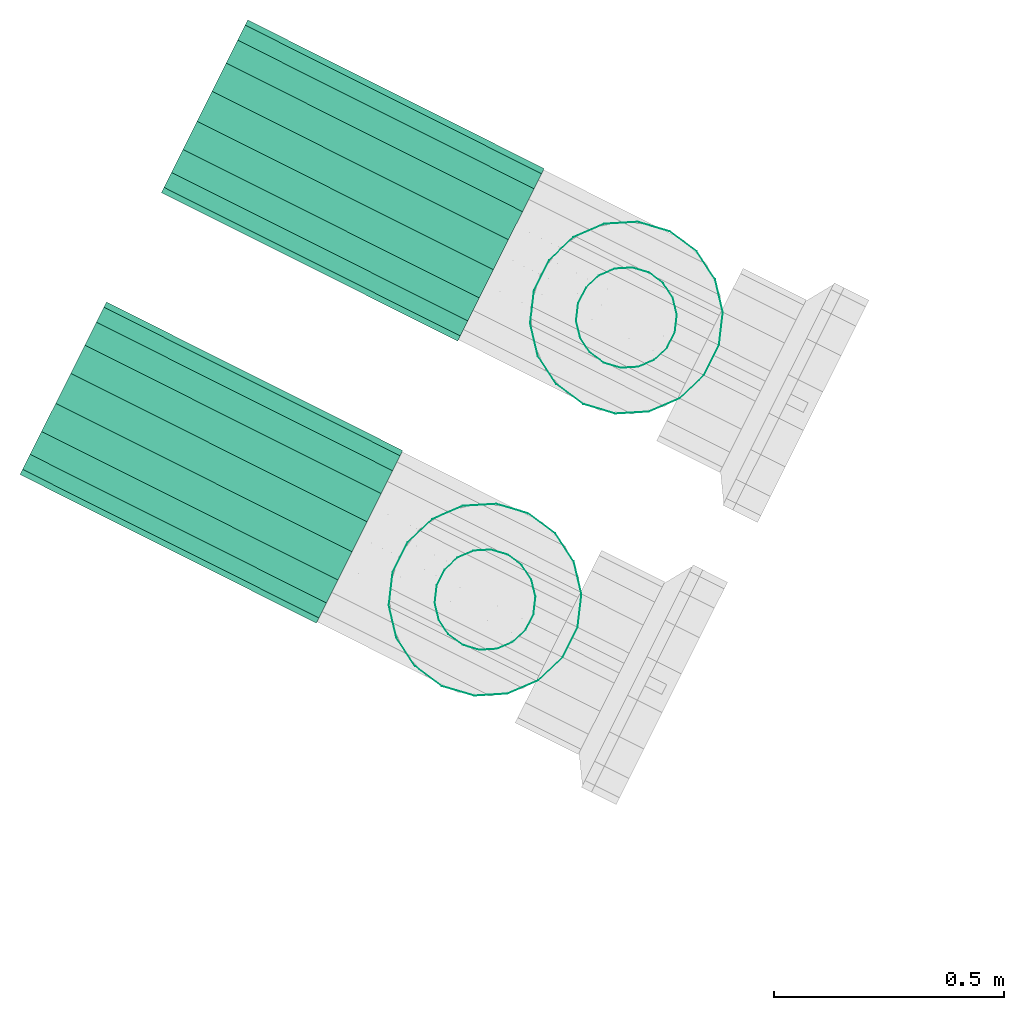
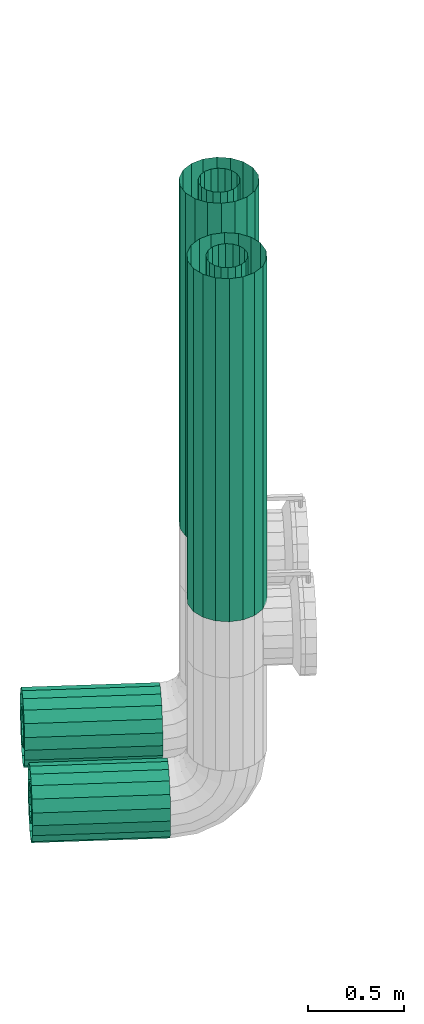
# One storey, part 3 of 11: 4 flow segments.
"""IFC2X3 building model written with IfcOpenShell, lengths in metres."""

import ifcopenshell
import ifcopenshell.guid

model = None  # the IFC model being written
_history = None  # IfcOwnerHistory: only IFC2X3 demands one
_inside = {}  # id of a spatial element -> (the spatial element, [elements in it])
_under = {}  # id of a project, library or spatial element -> (it, [spatial elements below it])
_declared = {}  # id of a project -> (the project, [libraries it declares])
_typed = {}  # id of a type object -> (the type object, [elements of that type])
_made_of = {}  # id of a material, layer set ... -> (it, [elements and type objects made of it])


def new_model(schema):
    """Start an empty IFC model of exactly this schema.

    Asked for "IFC4X3", IfcOpenShell would pick the latest addendum, in which some entities
    have other attributes; the version numbers below select the first issue.
    IFC2X3 requires an IfcOwnerHistory on every rooted entity: one is made here for all.
    """
    global model, _history
    if schema == "IFC4X3":
        model = ifcopenshell.file(schema_version=(4, 3, 0, 0))
    else:
        model = ifcopenshell.file(schema=schema)
    _inside.clear()
    _under.clear()
    _declared.clear()
    _typed.clear()
    _made_of.clear()
    _history = None
    if model.schema == "IFC2X3":
        org = make("IfcOrganization", Name="unknown")
        user = make(
            "IfcPersonAndOrganization",
            ThePerson=make("IfcPerson", FamilyName="unknown"),
            TheOrganization=org,
        )
        app = make(
            "IfcApplication",
            ApplicationDeveloper=org,
            Version="unknown",
            ApplicationFullName="unknown",
            ApplicationIdentifier="unknown",
        )
        _history = make(
            "IfcOwnerHistory",
            OwningUser=user,
            OwningApplication=app,
            ChangeAction="ADDED",
            CreationDate=0,
        )
    return model


def make(cls, **values):
    """One entity of the class cls with the attributes given. An attribute that is None is left unset."""
    return model.create_entity(
        cls, **{name: value for name, value in values.items() if value is not None}
    )


def rooted(cls, **values):
    """An entity with a GlobalId (a new one), such as an element, a storey or a relation."""
    return make(cls, GlobalId=ifcopenshell.guid.new(), OwnerHistory=_history, **values)


def si_unit(unit_type, name, prefix=None):
    """IfcSIUnit, for example si_unit("LENGTHUNIT", "METRE", prefix="MILLI")."""
    return make("IfcSIUnit", UnitType=unit_type, Prefix=prefix, Name=name)


def derived_unit(unit_type, elements):
    """IfcDerivedUnit: a product of units, each with its exponent."""
    return make(
        "IfcDerivedUnit",
        Elements=[
            make("IfcDerivedUnitElement", Unit=unit, Exponent=power)
            for unit, power in elements
        ],
        UnitType=unit_type,
    )


def assignment(units):
    """IfcUnitAssignment: the units of a project."""
    return None if units is None else make("IfcUnitAssignment", Units=units)


def point(xyz):
    """IfcCartesianPoint."""
    return None if xyz is None else make("IfcCartesianPoint", Coordinates=xyz)


def direction(xyz):
    """IfcDirection."""
    return None if xyz is None else make("IfcDirection", DirectionRatios=xyz)


def frame(location, z_axis=None, x_axis=None):
    """IfcAxis2Placement3D, a coordinate frame: its origin and axes. An axis left out is left unset."""
    return make(
        "IfcAxis2Placement3D",
        Location=point(location),
        Axis=direction(z_axis),
        RefDirection=direction(x_axis),
    )


def origin():
    """The frame at (0, 0, 0) with its axes left unset."""
    return frame((0.0, 0.0, 0.0))


def place(relative_to, where):
    """IfcLocalPlacement: puts the frame where relative to a parent placement (None: the world)."""
    return make(
        "IfcLocalPlacement", PlacementRelTo=relative_to, RelativePlacement=where
    )


def context(
    kind, dimensions, precision=None, world=None, true_north=None, identifier=None
):
    """IfcGeometricRepresentationContext, for example the 3D "Model" context."""
    return make(
        "IfcGeometricRepresentationContext",
        ContextIdentifier=identifier,
        ContextType=kind,
        CoordinateSpaceDimension=dimensions,
        Precision=precision,
        WorldCoordinateSystem=world,
        TrueNorth=true_north,
    )


def subcontext(parent, identifier, kind, view, scale=None):
    """IfcGeometricRepresentationSubContext, for example "Body" below "Model"."""
    return make(
        "IfcGeometricRepresentationSubContext",
        ContextIdentifier=identifier,
        ContextType=kind,
        ParentContext=parent,
        TargetScale=scale,
        TargetView=view,
    )


def project(units=None, contexts=None):
    """IfcProject with its units and contexts."""
    return rooted(
        "IfcProject",
        Name="project",
        RepresentationContexts=contexts,
        UnitsInContext=assignment(units),
    )


def spatial(cls, under=None, at=None, **own):
    """A site, building, storey or space (cls), placed at a placement, below another one or the project."""
    s = rooted(cls, ObjectPlacement=at, **own)
    if under is not None:
        _under.setdefault(under.id(), (under, []))[1].append(s)
    return s


def faces_of(points, faces, orient=None, outer=None):
    """IfcFace entities. A face is a list of loops; a loop is a list of indices into points, from 0.

    orient and outer hold one flag for each loop. By default every Orientation is true, the
    first loop of a face is its IfcFaceOuterBound and the others are IfcFaceBound.
    """
    made = []
    for i, loops in enumerate(faces):
        bounds = []
        for j, loop in enumerate(loops):
            is_outer = j == 0 if outer is None else outer[i][j]
            bounds.append(
                make(
                    "IfcFaceOuterBound" if is_outer else "IfcFaceBound",
                    Bound=make("IfcPolyLoop", Polygon=[points[k] for k in loop]),
                    Orientation=True if orient is None else orient[i][j],
                )
            )
        made.append(make("IfcFace", Bounds=bounds))
    return made


def face_set(faces, orient=None, outer=None):
    """The faces of one IfcConnectedFaceSet. surface_model builds it on its shared points."""
    return ("IfcConnectedFaceSet", faces, orient, outer)


def surface_model(cls, points, shells):
    """IfcFaceBasedSurfaceModel or IfcShellBasedSurfaceModel (cls): surfaces that need not close."""
    shared = [point(p) for p in points]
    made = [make(c, CfsFaces=faces_of(shared, fs, o, b)) for c, fs, o, b in shells]
    if cls == "IfcFaceBasedSurfaceModel":
        return make(cls, FbsmFaces=made)
    return make(cls, SbsmBoundary=made)


def shape(context_of_items, identifier, shape_type, items):
    """IfcShapeRepresentation: the items that make up one representation, for example the "Body"."""
    return make(
        "IfcShapeRepresentation",
        ContextOfItems=context_of_items,
        RepresentationIdentifier=identifier,
        RepresentationType=shape_type,
        Items=items,
    )


def source(mapping_origin, context_of_items, identifier, shape_type, items):
    """IfcRepresentationMap: a shape defined once, which mapped items show again and again."""
    return make(
        "IfcRepresentationMap",
        MappingOrigin=mapping_origin,
        MappedRepresentation=shape(context_of_items, identifier, shape_type, items),
    )


def transform(
    local_origin,
    x_axis=None,
    y_axis=None,
    z_axis=None,
    scale=None,
    scale2=None,
    scale3=None,
    uniform=True,
):
    """IfcCartesianTransformationOperator3D, or its non-uniform kind. x_axis, y_axis, z_axis: its Axis1, 2, 3."""
    if uniform:
        return make(
            "IfcCartesianTransformationOperator3D",
            Axis1=direction(x_axis),
            Axis2=direction(y_axis),
            LocalOrigin=point(local_origin),
            Scale=scale,
            Axis3=direction(z_axis),
        )
    return make(
        "IfcCartesianTransformationOperator3DnonUniform",
        Axis1=direction(x_axis),
        Axis2=direction(y_axis),
        LocalOrigin=point(local_origin),
        Scale=scale,
        Axis3=direction(z_axis),
        Scale2=scale2,
        Scale3=scale3,
    )


def mapped(mapping_source, mapping_target):
    """IfcMappedItem: shows the shape of a source again, moved by a transform."""
    return make(
        "IfcMappedItem", MappingSource=mapping_source, MappingTarget=mapping_target
    )


def material(Name=None, Category=None):
    """IfcMaterial."""
    return make("IfcMaterial", Name=Name, Category=Category)


def made_of(thing, what):
    """Note that an element or type object is made of a material, layer set ...; save() writes the relation."""
    if what is not None:
        _made_of.setdefault(what.id(), (what, []))[1].append(thing)
    return thing


def type_object(cls, material=None, **own):
    """A type object (cls), such as IfcWallType, which elements share."""
    return made_of(rooted(cls, **own), material)


def type_shapes(of_type, sources):
    """Give a type object the sources (RepresentationMaps) that its elements show as mapped items."""
    of_type.RepresentationMaps = sources


def element(
    cls,
    number,
    at=None,
    inside=None,
    cuts=None,
    type_object=None,
    material=None,
    context=None,
    identifier="Body",
    shape_type=None,
    held_by="IfcProductDefinitionShape",
    body=None,
    shapes=None,
    **own,
):
    """One element of the class cls, such as IfcWall. Its Tag is "e" and its number.

    at: its placement. inside: the storey or other place that contains it. cuts: it is an
    opening in that element (IfcRelVoidsElement). A single representation is given by context,
    identifier, shape_type and body (its items); several are given by shapes. held_by: the class
    of the entity that holds the representations. save() writes the other relations.
    """
    e = rooted(cls, Tag="e%d" % number, ObjectPlacement=at, **own)
    if body is not None:
        shapes = [shape(context, identifier, shape_type, body)]
    if shapes is not None:
        e.Representation = make(held_by, Representations=shapes)
    if inside is not None:
        _inside.setdefault(inside.id(), (inside, []))[1].append(e)
    if cuts is not None:
        rooted(
            "IfcRelVoidsElement", RelatingBuildingElement=cuts, RelatedOpeningElement=e
        )
    if type_object is not None:
        _typed.setdefault(type_object.id(), (type_object, []))[1].append(e)
    return made_of(e, material)


def aggregate(whole, parts):
    """IfcRelAggregates: a whole, such as a stair, and the parts it consists of."""
    return rooted("IfcRelAggregates", RelatingObject=whole, RelatedObjects=parts)


def save(model, path):
    """Write the relations noted so far, then the file.

    IfcRelAggregates (storeys below a building ...), IfcRelContainedInSpatialStructure (elements
    in a storey), IfcRelDefinesByType, IfcRelAssociatesMaterial and IfcRelDeclares: one each for
    every whole, place, type object, material and project.
    """
    for whole, parts in _under.values():
        aggregate(whole, parts)
    for where, things in _inside.values():
        rooted(
            "IfcRelContainedInSpatialStructure",
            RelatedElements=things,
            RelatingStructure=where,
        )
    for kind, things in _typed.values():
        rooted("IfcRelDefinesByType", RelatedObjects=things, RelatingType=kind)
    for what, things in _made_of.values():
        rooted("IfcRelAssociatesMaterial", RelatedObjects=things, RelatingMaterial=what)
    for by, libraries in _declared.values():
        rooted("IfcRelDeclares", RelatingContext=by, RelatedDefinitions=libraries)
    model.write(path)


model = new_model("IFC2X3")

# Units and contexts
model_context = context("Model", 3, precision=5.2338327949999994e-05, world=origin(), true_north=direction((0.0, 1.0)))
body_context = subcontext(model_context, "Body", "Model", "MODEL_VIEW")
ifc_project = project(units=[si_unit("LENGTHUNIT", "METRE"), si_unit("AREAUNIT", "SQUARE_METRE"), si_unit("VOLUMEUNIT", "CUBIC_METRE"), si_unit("MASSUNIT", "GRAM", prefix="KILO"), si_unit("PLANEANGLEUNIT", "RADIAN"), derived_unit("THERMALTRANSMITTANCEUNIT", [(si_unit("MASSUNIT", "GRAM", prefix="KILO"), 1), (si_unit("THERMODYNAMICTEMPERATUREUNIT", "KELVIN"), -1), (si_unit("TIMEUNIT", "SECOND"), -3)])], contexts=[model_context])

# Site, building, storey
site_placement = place(None, frame((0.0, 0.0, 0.0), z_axis=(0.0, 0.0, 1.0), x_axis=(0.8939966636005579, -0.4480736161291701, 0.0)))
site = spatial("IfcSite", under=ifc_project, at=site_placement, Name="Default", CompositionType="ELEMENT")
building_placement = place(site_placement, origin())
building = spatial("IfcBuilding", under=site, at=building_placement, CompositionType="ELEMENT")
storey_placement = place(building_placement, frame((0.0, 0.0, -2.7499999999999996)))
storey = spatial("IfcBuildingStorey", under=building, at=storey_placement, Name="1. Untergeschoss", CompositionType="ELEMENT", Elevation=-2.7499999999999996)

# Flow segments
ifc_material_1 = material(Name="IfcSurfaceStyle #9317")
distribution_element_type_1 = type_object("IfcDistributionElementType", Name="Stahlrohr nach DIN 2448 852532:Stahlrohr nach DIN 2448 852532", material=ifc_material_1)
shared_shape_1 = source(origin(), body_context, "Body", "SurfaceModel", [
    surface_model("IfcFaceBasedSurfaceModel", [(0.611269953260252, 7.436758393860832, -2.0789999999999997), (0.611269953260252, 7.430151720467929, -2.1164683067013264), (-0.10845270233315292, 7.430151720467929, -2.1164683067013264), (-0.10845270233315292, 7.436758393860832, -2.079), (0.611269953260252, 7.411128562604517, -2.1494173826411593), (-0.10845270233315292, 7.411128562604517, -2.1494173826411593), (0.611269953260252, 7.381983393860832, -2.173873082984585), (-0.10845270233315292, 7.381983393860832, -2.173873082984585), (0.611269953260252, 7.346231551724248, -2.1868856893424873), (-0.10845270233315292, 7.346231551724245, -2.1868856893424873), (0.611269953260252, 7.308185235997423, -2.1868856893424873), (-0.10845270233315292, 7.3081852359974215, -2.1868856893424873), (0.611269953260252, 7.272433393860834, -2.1738730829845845), (-0.10845270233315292, 7.272433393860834, -2.173873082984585), (0.611269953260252, 7.243288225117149, -2.149417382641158), (-0.10845270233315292, 7.243288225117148, -2.1494173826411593), (0.611269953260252, 7.224265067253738, -2.116468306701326), (-0.10845270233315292, 7.224265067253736, -2.1164683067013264), (0.611269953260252, 7.217658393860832, -2.0789999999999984), (-0.10845270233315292, 7.217658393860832, -2.078999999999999), (0.611269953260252, 7.224265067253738, -2.041531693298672), (-0.10845270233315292, 7.224265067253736, -2.041531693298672), (0.611269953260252, 7.243288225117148, -2.0085826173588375), (-0.10845270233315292, 7.243288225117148, -2.008582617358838), (0.611269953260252, 7.272433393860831, -1.9841269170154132), (-0.10845270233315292, 7.2724333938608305, -1.9841269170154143), (0.611269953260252, 7.3081852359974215, -1.971114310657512), (-0.10845270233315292, 7.30818523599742, -1.9711143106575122), (0.611269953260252, 7.3462315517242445, -1.9711143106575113), (-0.10845270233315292, 7.346231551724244, -1.9711143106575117), (0.611269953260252, 7.381983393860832, -1.984126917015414), (-0.10845270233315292, 7.381983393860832, -1.984126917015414), (0.611269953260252, 7.411128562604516, -2.008582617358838), (-0.10845270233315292, 7.411128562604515, -2.008582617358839), (0.611269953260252, 7.4301517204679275, -2.0415316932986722), (-0.10845270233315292, 7.4301517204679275, -2.0415316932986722), (0.611269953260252, 7.536758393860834, -2.079), (0.611269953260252, 7.524120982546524, -2.150670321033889), (-0.10845270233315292, 7.5241209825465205, -2.1506703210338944), (-0.10845270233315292, 7.536758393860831, -2.079), (0.611269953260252, 7.487733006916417, -2.213696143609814), (-0.10845270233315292, 7.487733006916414, -2.213696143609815), (0.611269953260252, 7.431983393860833, -2.2604756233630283), (-0.10845270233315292, 7.431983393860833, -2.260475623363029), (0.611269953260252, 7.363596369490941, -2.2853664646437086), (-0.10845270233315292, 7.36359636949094, -2.285366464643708), (0.611269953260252, 7.29082041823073, -2.2853664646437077), (-0.10845270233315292, 7.29082041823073, -2.2853664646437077), (0.611269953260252, 7.222433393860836, -2.2604756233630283), (-0.10845270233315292, 7.222433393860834, -2.2604756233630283), (0.611269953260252, 7.1666837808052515, -2.2136961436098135), (-0.10845270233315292, 7.166683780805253, -2.2136961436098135), (0.611269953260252, 7.130295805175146, -2.150670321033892), (-0.10845270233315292, 7.130295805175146, -2.1506703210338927), (0.611269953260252, 7.117658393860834, -2.078999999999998), (-0.10845270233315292, 7.117658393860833, -2.078999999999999), (0.611269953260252, 7.1302958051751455, -2.007329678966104), (-0.10845270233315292, 7.1302958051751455, -2.0073296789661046), (0.611269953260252, 7.166683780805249, -1.9443038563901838), (-0.10845270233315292, 7.16668378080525, -1.944303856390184), (0.611269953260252, 7.2224333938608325, -1.8975243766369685), (-0.10845270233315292, 7.222433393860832, -1.8975243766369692), (0.611269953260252, 7.290820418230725, -1.872633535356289), (-0.10845270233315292, 7.290820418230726, -1.8726335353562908), (0.611269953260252, 7.363596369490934, -1.8726335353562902), (-0.10845270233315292, 7.363596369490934, -1.8726335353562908), (0.611269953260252, 7.431983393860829, -1.8975243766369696), (-0.10845270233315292, 7.431983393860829, -1.89752437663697), (0.611269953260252, 7.487733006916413, -1.9443038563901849), (-0.10845270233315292, 7.487733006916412, -1.9443038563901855), (0.611269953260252, 7.524120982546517, -2.0073296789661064), (-0.10845270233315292, 7.524120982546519, -2.0073296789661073)], [face_set([[[0, 1, 2, 3]], [[1, 4, 5, 2]], [[4, 6, 7, 5]], [[6, 8, 9, 7]], [[8, 10, 11, 9]], [[10, 12, 13, 11]], [[12, 14, 15, 13]], [[14, 16, 17, 15]], [[16, 18, 19, 17]], [[18, 20, 21, 19]], [[20, 22, 23, 21]], [[22, 24, 25, 23]], [[24, 26, 27, 25]], [[26, 28, 29, 27]], [[28, 30, 31, 29]], [[30, 32, 33, 31]], [[32, 34, 35, 33]], [[34, 0, 3, 35]], [[36, 37, 38, 39]], [[37, 40, 41, 38]], [[40, 42, 43, 41]], [[42, 44, 45, 43]], [[44, 46, 47, 45]], [[46, 48, 49, 47]], [[48, 50, 51, 49]], [[50, 52, 53, 51]], [[52, 54, 55, 53]], [[54, 56, 57, 55]], [[56, 58, 59, 57]], [[58, 60, 61, 59]], [[60, 62, 63, 61]], [[62, 64, 65, 63]], [[64, 66, 67, 65]], [[66, 68, 69, 67]], [[68, 70, 71, 69]], [[70, 36, 39, 71]]])]),
])
type_shapes(distribution_element_type_1, [shared_shape_1])
flow_segment_1_placement = place(storey_placement, frame((0.0, 0.0, 2.7499999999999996)))
element("IfcFlowSegment", 1, at=flow_segment_1_placement, inside=storey, type_object=distribution_element_type_1, material=ifc_material_1, Name="Stahlrohr nach DIN 2448", ObjectType="Stahlrohr nach DIN 2448", context=body_context, shape_type="MappedRepresentation", body=[
    mapped(shared_shape_1, transform((0.0, 0.0, 0.0), scale=1.0)),
])
ifc_material_2 = material(Name="IfcSurfaceStyle #1741")
distribution_element_type_2 = type_object("IfcDistributionElementType", Name="Stahlrohr nach DIN 2448 852836:Stahlrohr nach DIN 2448 852836", material=ifc_material_2)
shared_shape_2 = source(origin(), body_context, "Body", "SurfaceModel", [
    surface_model("IfcFaceBasedSurfaceModel", [(0.6112699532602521, 8.121758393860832, -2.0789999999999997), (0.6112699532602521, 8.11515172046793, -2.1164683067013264), (-0.10845270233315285, 8.11515172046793, -2.1164683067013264), (-0.10845270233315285, 8.121758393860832, -2.079), (0.6112699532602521, 8.096128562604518, -2.1494173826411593), (-0.10845270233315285, 8.096128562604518, -2.1494173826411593), (0.6112699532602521, 8.066983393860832, -2.173873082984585), (-0.10845270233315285, 8.066983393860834, -2.173873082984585), (0.6112699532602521, 8.031231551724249, -2.1868856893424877), (-0.10845270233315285, 8.031231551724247, -2.1868856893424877), (0.6112699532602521, 7.993185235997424, -2.1868856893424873), (-0.10845270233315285, 7.993185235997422, -2.1868856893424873), (0.6112699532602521, 7.957433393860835, -2.1738730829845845), (-0.10845270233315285, 7.957433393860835, -2.173873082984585), (0.6112699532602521, 7.928288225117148, -2.1494173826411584), (-0.10845270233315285, 7.928288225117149, -2.1494173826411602), (0.6112699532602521, 7.909265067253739, -2.116468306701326), (-0.10845270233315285, 7.909265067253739, -2.116468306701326), (0.6112699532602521, 7.902658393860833, -2.078999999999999), (-0.10845270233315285, 7.902658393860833, -2.078999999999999), (0.6112699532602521, 7.909265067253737, -2.0415316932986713), (-0.10845270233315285, 7.909265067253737, -2.041531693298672), (0.6112699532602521, 7.928288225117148, -2.0085826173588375), (-0.10845270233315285, 7.928288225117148, -2.008582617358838), (0.6112699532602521, 7.957433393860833, -1.9841269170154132), (-0.10845270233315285, 7.957433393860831, -1.9841269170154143), (0.6112699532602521, 7.993185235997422, -1.9711143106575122), (-0.10845270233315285, 7.993185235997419, -1.9711143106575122), (0.6112699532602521, 8.031231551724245, -1.9711143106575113), (-0.10845270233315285, 8.031231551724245, -1.971114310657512), (0.6112699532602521, 8.066983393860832, -1.984126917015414), (-0.10845270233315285, 8.066983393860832, -1.984126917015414), (0.6112699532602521, 8.096128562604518, -2.008582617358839), (-0.10845270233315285, 8.096128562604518, -2.0085826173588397), (0.6112699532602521, 8.115151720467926, -2.0415316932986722), (-0.10845270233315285, 8.115151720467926, -2.0415316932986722), (0.6112699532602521, 8.221758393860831, -2.079), (0.6112699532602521, 8.209120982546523, -2.150670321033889), (-0.10845270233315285, 8.20912098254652, -2.1506703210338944), (-0.10845270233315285, 8.22175839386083, -2.079), (0.6112699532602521, 8.172733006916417, -2.2136961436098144), (-0.10845270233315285, 8.172733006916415, -2.2136961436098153), (0.6112699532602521, 8.116983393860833, -2.2604756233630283), (-0.10845270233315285, 8.116983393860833, -2.260475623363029), (0.6112699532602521, 8.04859636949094, -2.2853664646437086), (-0.10845270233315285, 8.048596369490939, -2.285366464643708), (0.6112699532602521, 7.975820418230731, -2.2853664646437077), (-0.10845270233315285, 7.975820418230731, -2.285366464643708), (0.6112699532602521, 7.907433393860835, -2.2604756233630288), (-0.10845270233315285, 7.907433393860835, -2.2604756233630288), (0.6112699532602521, 7.851683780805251, -2.2136961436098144), (-0.10845270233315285, 7.851683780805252, -2.2136961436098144), (0.6112699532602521, 7.815295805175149, -2.1506703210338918), (-0.10845270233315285, 7.815295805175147, -2.150670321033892), (0.6112699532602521, 7.802658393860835, -2.078999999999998), (-0.10845270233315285, 7.802658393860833, -2.078999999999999), (0.6112699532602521, 7.815295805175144, -2.007329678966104), (-0.10845270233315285, 7.815295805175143, -2.0073296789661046), (0.6112699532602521, 7.85168378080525, -1.9443038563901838), (-0.10845270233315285, 7.851683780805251, -1.944303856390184), (0.6112699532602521, 7.907433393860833, -1.8975243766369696), (-0.10845270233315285, 7.907433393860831, -1.89752437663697), (0.6112699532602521, 7.9758204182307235, -1.872633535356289), (-0.10845270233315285, 7.975820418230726, -1.8726335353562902), (0.6112699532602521, 8.048596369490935, -1.8726335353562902), (-0.10845270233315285, 8.048596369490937, -1.872633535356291), (0.6112699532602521, 8.11698339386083, -1.8975243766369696), (-0.10845270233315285, 8.11698339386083, -1.89752437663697), (0.6112699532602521, 8.172733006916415, -1.9443038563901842), (-0.10845270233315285, 8.172733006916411, -1.944303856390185), (0.6112699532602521, 8.209120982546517, -2.007329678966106), (-0.10845270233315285, 8.209120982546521, -2.007329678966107)], [face_set([[[0, 1, 2, 3]], [[1, 4, 5, 2]], [[4, 6, 7, 5]], [[6, 8, 9, 7]], [[8, 10, 11, 9]], [[10, 12, 13, 11]], [[12, 14, 15, 13]], [[14, 16, 17, 15]], [[16, 18, 19, 17]], [[18, 20, 21, 19]], [[20, 22, 23, 21]], [[22, 24, 25, 23]], [[24, 26, 27, 25]], [[26, 28, 29, 27]], [[28, 30, 31, 29]], [[30, 32, 33, 31]], [[32, 34, 35, 33]], [[34, 0, 3, 35]], [[36, 37, 38, 39]], [[37, 40, 41, 38]], [[40, 42, 43, 41]], [[42, 44, 45, 43]], [[44, 46, 47, 45]], [[46, 48, 49, 47]], [[48, 50, 51, 49]], [[50, 52, 53, 51]], [[52, 54, 55, 53]], [[54, 56, 57, 55]], [[56, 58, 59, 57]], [[58, 60, 61, 59]], [[60, 62, 63, 61]], [[62, 64, 65, 63]], [[64, 66, 67, 65]], [[66, 68, 69, 67]], [[68, 70, 71, 69]], [[70, 36, 39, 71]]])]),
])
type_shapes(distribution_element_type_2, [shared_shape_2])
flow_segment_2_placement = place(storey_placement, frame((0.0, 0.0, 2.7499999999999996)))
element("IfcFlowSegment", 2, at=flow_segment_2_placement, inside=storey, type_object=distribution_element_type_2, material=ifc_material_2, Name="Stahlrohr nach DIN 2448", ObjectType="Stahlrohr nach DIN 2448", context=body_context, shape_type="MappedRepresentation", body=[
    mapped(shared_shape_2, transform((0.0, 0.0, 0.0), scale=1.0)),
])
distribution_element_type_3 = type_object("IfcDistributionElementType", Name="Stahlrohr nach DIN 2448 860506:Stahlrohr nach DIN 2448 860506", material=ifc_material_2)
shared_shape_3 = source(origin(), body_context, "Body", "SurfaceModel", [
    surface_model("IfcFaceBasedSurfaceModel", [(0.9162699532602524, 8.121758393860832, -0.8271073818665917), (0.8788016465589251, 8.11515172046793, -0.8271073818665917), (0.8788016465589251, 8.11515172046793, 1.3499999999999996), (0.9162699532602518, 8.121758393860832, 1.3499999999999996), (0.8458525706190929, 8.096128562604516, -0.8271073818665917), (0.8458525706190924, 8.096128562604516, 1.3499999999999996), (0.821396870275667, 8.066983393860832, -0.8271073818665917), (0.821396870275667, 8.066983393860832, 1.3499999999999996), (0.8083842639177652, 8.031231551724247, -0.8271073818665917), (0.8083842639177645, 8.031231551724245, 1.3499999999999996), (0.808384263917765, 7.993185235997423, -0.8271073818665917), (0.808384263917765, 7.993185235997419, 1.3499999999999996), (0.8213968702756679, 7.957433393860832, -0.8271073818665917), (0.8213968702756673, 7.957433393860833, 1.3499999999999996), (0.8458525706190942, 7.928288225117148, -0.8271073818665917), (0.8458525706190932, 7.928288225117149, 1.3499999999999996), (0.8788016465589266, 7.909265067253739, -0.8271073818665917), (0.878801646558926, 7.909265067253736, 1.3499999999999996), (0.9162699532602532, 7.902658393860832, -0.8271073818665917), (0.916269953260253, 7.902658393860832, 1.3499999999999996), (0.9537382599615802, 7.909265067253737, -0.8271073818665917), (0.9537382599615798, 7.909265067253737, 1.3499999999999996), (0.9866873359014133, 7.928288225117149, -0.8271073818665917), (0.9866873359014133, 7.928288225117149, 1.3499999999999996), (1.0111430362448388, 7.957433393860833, -0.8271073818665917), (1.011143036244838, 7.957433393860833, 1.3499999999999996), (1.0241556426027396, 7.993185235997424, -0.8271073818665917), (1.0241556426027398, 7.993185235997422, 1.3499999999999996), (1.02415564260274, 8.031231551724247, -0.8271073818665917), (1.02415564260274, 8.031231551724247, 1.3499999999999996), (1.0111430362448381, 8.066983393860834, -0.8271073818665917), (1.0111430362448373, 8.066983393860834, 1.3499999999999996), (0.9866873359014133, 8.096128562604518, -0.8271073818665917), (0.9866873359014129, 8.096128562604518, 1.3499999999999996), (0.9537382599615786, 8.115151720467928, -0.8271073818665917), (0.9537382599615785, 8.115151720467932, 1.3499999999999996), (0.916269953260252, 8.221758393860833, -0.8271073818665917), (0.8445996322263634, 8.209120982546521, -0.8271073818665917), (0.8445996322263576, 8.20912098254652, 1.3499999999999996), (0.9162699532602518, 8.22175839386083, 1.3499999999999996), (0.7815738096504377, 8.172733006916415, -0.8271073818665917), (0.7815738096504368, 8.172733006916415, 1.3499999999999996), (0.7347943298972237, 8.11698339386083, -0.8271073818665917), (0.7347943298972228, 8.116983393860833, 1.3499999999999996), (0.7099034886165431, 8.048596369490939, -0.8271073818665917), (0.7099034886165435, 8.048596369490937, 1.3499999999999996), (0.7099034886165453, 7.975820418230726, -0.8271073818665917), (0.7099034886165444, 7.975820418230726, 1.3499999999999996), (0.7347943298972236, 7.907433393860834, -0.8271073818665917), (0.7347943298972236, 7.907433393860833, 1.3499999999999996), (0.7815738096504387, 7.85168378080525, -0.8271073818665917), (0.7815738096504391, 7.851683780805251, 1.3499999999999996), (0.8445996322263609, 7.815295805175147, -0.8271073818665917), (0.8445996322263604, 7.815295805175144, 1.3499999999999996), (0.9162699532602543, 7.802658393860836, -0.8271073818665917), (0.9162699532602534, 7.802658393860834, 1.3499999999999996), (0.987940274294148, 7.815295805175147, -0.8271073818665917), (0.9879402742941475, 7.815295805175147, 1.3499999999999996), (1.050966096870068, 7.85168378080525, -0.8271073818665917), (1.0509660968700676, 7.851683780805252, 1.3499999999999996), (1.0977455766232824, 7.907433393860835, -0.8271073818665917), (1.0977455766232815, 7.907433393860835, 1.3499999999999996), (1.1226364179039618, 7.975820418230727, -0.8271073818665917), (1.122636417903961, 7.975820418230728, 1.3499999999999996), (1.1226364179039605, 8.048596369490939, -0.8271073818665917), (1.1226364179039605, 8.048596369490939, 1.3499999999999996), (1.097745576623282, 8.116983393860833, -0.8271073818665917), (1.097745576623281, 8.116983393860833, 1.3499999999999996), (1.0509660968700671, 8.172733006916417, -0.8271073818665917), (1.0509660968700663, 8.172733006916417, 1.3499999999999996), (0.9879402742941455, 8.209120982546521, -0.8271073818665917), (0.9879402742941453, 8.209120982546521, 1.3499999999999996)], [face_set([[[0, 1, 2, 3]], [[1, 4, 5, 2]], [[4, 6, 7, 5]], [[6, 8, 9, 7]], [[8, 10, 11, 9]], [[10, 12, 13, 11]], [[12, 14, 15, 13]], [[14, 16, 17, 15]], [[16, 18, 19, 17]], [[18, 20, 21, 19]], [[20, 22, 23, 21]], [[22, 24, 25, 23]], [[24, 26, 27, 25]], [[26, 28, 29, 27]], [[28, 30, 31, 29]], [[30, 32, 33, 31]], [[32, 34, 35, 33]], [[34, 0, 3, 35]], [[36, 37, 38, 39]], [[37, 40, 41, 38]], [[40, 42, 43, 41]], [[42, 44, 45, 43]], [[44, 46, 47, 45]], [[46, 48, 49, 47]], [[48, 50, 51, 49]], [[50, 52, 53, 51]], [[52, 54, 55, 53]], [[54, 56, 57, 55]], [[56, 58, 59, 57]], [[58, 60, 61, 59]], [[60, 62, 63, 61]], [[62, 64, 65, 63]], [[64, 66, 67, 65]], [[66, 68, 69, 67]], [[68, 70, 71, 69]], [[70, 36, 39, 71]]])]),
])
type_shapes(distribution_element_type_3, [shared_shape_3])
flow_segment_3_placement = place(storey_placement, frame((0.0, 0.0, 2.7499999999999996)))
element("IfcFlowSegment", 3, at=flow_segment_3_placement, inside=storey, type_object=distribution_element_type_3, material=ifc_material_2, Name="Stahlrohr nach DIN 2448", ObjectType="Stahlrohr nach DIN 2448", context=body_context, shape_type="MappedRepresentation", body=[
    mapped(shared_shape_3, transform((0.0, 0.0, 0.0), scale=1.0)),
])
distribution_element_type_4 = type_object("IfcDistributionElementType", Name="Stahlrohr nach DIN 2448 860833:Stahlrohr nach DIN 2448 860833", material=ifc_material_1)
shared_shape_4 = source(origin(), body_context, "Body", "SurfaceModel", [
    surface_model("IfcFaceBasedSurfaceModel", [(0.9162699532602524, 7.436758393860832, -0.8271073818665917), (0.8788016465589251, 7.430151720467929, -0.8271073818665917), (0.8788016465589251, 7.430151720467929, 1.3499999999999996), (0.916269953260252, 7.436758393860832, 1.3499999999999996), (0.8458525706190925, 7.411128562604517, -0.8271073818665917), (0.845852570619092, 7.411128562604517, 1.3499999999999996), (0.821396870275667, 7.381983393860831, -0.8271073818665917), (0.821396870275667, 7.381983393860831, 1.3499999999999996), (0.8083842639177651, 7.346231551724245, -0.8271073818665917), (0.8083842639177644, 7.3462315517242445, 1.3499999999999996), (0.808384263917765, 7.3081852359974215, -0.8271073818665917), (0.808384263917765, 7.30818523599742, 1.3499999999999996), (0.8213968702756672, 7.272433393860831, -0.8271073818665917), (0.8213968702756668, 7.272433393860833, 1.3499999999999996), (0.8458525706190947, 7.243288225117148, -0.8271073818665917), (0.8458525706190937, 7.243288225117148, 1.3499999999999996), (0.8788016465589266, 7.224265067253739, -0.8271073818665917), (0.878801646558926, 7.224265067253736, 1.3499999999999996), (0.9162699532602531, 7.217658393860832, -0.8271073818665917), (0.9162699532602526, 7.21765839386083, 1.3499999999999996), (0.9537382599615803, 7.224265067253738, -0.8271073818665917), (0.9537382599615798, 7.224265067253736, 1.3499999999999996), (0.9866873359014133, 7.243288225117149, -0.8271073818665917), (0.9866873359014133, 7.243288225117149, 1.3499999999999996), (1.0111430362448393, 7.272433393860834, -0.8271073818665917), (1.0111430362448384, 7.272433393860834, 1.3499999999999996), (1.0241556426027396, 7.308185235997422, -0.8271073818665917), (1.0241556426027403, 7.3081852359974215, 1.3499999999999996), (1.02415564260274, 7.346231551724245, -0.8271073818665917), (1.02415564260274, 7.346231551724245, 1.3499999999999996), (1.0111430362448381, 7.381983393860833, -0.8271073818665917), (1.0111430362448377, 7.381983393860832, 1.3499999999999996), (0.9866873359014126, 7.411128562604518, -0.8271073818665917), (0.9866873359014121, 7.411128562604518, 1.3499999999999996), (0.953738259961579, 7.43015172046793, -0.8271073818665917), (0.953738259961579, 7.430151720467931, 1.3499999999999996), (0.9162699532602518, 7.536758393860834, -0.8271073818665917), (0.8445996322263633, 7.524120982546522, -0.8271073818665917), (0.8445996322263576, 7.52412098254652, 1.3499999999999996), (0.9162699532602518, 7.536758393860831, 1.3499999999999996), (0.7815738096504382, 7.487733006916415, -0.8271073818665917), (0.7815738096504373, 7.487733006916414, 1.3499999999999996), (0.7347943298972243, 7.43198339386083, -0.8271073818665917), (0.7347943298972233, 7.431983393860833, 1.3499999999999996), (0.7099034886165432, 7.363596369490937, -0.8271073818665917), (0.7099034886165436, 7.363596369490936, 1.3499999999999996), (0.7099034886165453, 7.290820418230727, -0.8271073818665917), (0.7099034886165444, 7.290820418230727, 1.3499999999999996), (0.7347943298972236, 7.2224333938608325, -0.8271073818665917), (0.7347943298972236, 7.222433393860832, 1.3499999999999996), (0.7815738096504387, 7.16668378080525, -0.8271073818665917), (0.7815738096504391, 7.16668378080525, 1.3499999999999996), (0.8445996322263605, 7.130295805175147, -0.8271073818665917), (0.8445996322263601, 7.1302958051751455, 1.3499999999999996), (0.9162699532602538, 7.117658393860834, -0.8271073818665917), (0.9162699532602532, 7.117658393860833, 1.3499999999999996), (0.987940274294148, 7.130295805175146, -0.8271073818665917), (0.9879402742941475, 7.130295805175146, 1.3499999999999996), (1.0509660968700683, 7.16668378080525, -0.8271073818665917), (1.050966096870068, 7.1666837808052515, 1.3499999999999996), (1.0977455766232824, 7.222433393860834, -0.8271073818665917), (1.0977455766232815, 7.222433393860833, 1.3499999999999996), (1.122636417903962, 7.290820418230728, -0.8271073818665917), (1.1226364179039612, 7.290820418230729, 1.3499999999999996), (1.1226364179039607, 7.363596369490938, -0.8271073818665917), (1.1226364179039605, 7.363596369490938, 1.3499999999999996), (1.097745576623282, 7.4319833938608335, -0.8271073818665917), (1.097745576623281, 7.4319833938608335, 1.3499999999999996), (1.0509660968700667, 7.487733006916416, -0.8271073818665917), (1.0509660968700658, 7.487733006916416, 1.3499999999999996), (0.987940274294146, 7.52412098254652, -0.8271073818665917), (0.9879402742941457, 7.52412098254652, 1.3499999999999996)], [face_set([[[0, 1, 2, 3]], [[1, 4, 5, 2]], [[4, 6, 7, 5]], [[6, 8, 9, 7]], [[8, 10, 11, 9]], [[10, 12, 13, 11]], [[12, 14, 15, 13]], [[14, 16, 17, 15]], [[16, 18, 19, 17]], [[18, 20, 21, 19]], [[20, 22, 23, 21]], [[22, 24, 25, 23]], [[24, 26, 27, 25]], [[26, 28, 29, 27]], [[28, 30, 31, 29]], [[30, 32, 33, 31]], [[32, 34, 35, 33]], [[34, 0, 3, 35]], [[36, 37, 38, 39]], [[37, 40, 41, 38]], [[40, 42, 43, 41]], [[42, 44, 45, 43]], [[44, 46, 47, 45]], [[46, 48, 49, 47]], [[48, 50, 51, 49]], [[50, 52, 53, 51]], [[52, 54, 55, 53]], [[54, 56, 57, 55]], [[56, 58, 59, 57]], [[58, 60, 61, 59]], [[60, 62, 63, 61]], [[62, 64, 65, 63]], [[64, 66, 67, 65]], [[66, 68, 69, 67]], [[68, 70, 71, 69]], [[70, 36, 39, 71]]])]),
])
type_shapes(distribution_element_type_4, [shared_shape_4])
flow_segment_4_placement = place(storey_placement, frame((0.0, 0.0, 2.7499999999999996)))
element("IfcFlowSegment", 4, at=flow_segment_4_placement, inside=storey, type_object=distribution_element_type_4, material=ifc_material_1, Name="Stahlrohr nach DIN 2448", ObjectType="Stahlrohr nach DIN 2448", context=body_context, shape_type="MappedRepresentation", body=[
    mapped(shared_shape_4, transform((0.0, 0.0, 0.0), scale=1.0)),
])

save(model, "model.ifc")
